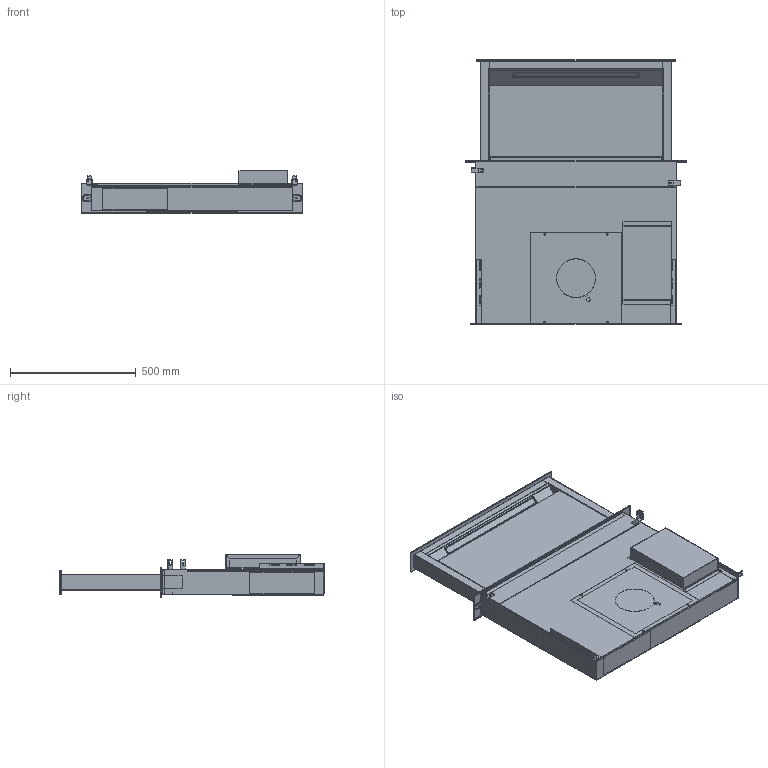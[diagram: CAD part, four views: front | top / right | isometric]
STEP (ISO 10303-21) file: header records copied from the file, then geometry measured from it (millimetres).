
FILE_DESCRIPTION((''),'2;1');
FILE_NAME('28A_710_ASM','2016-05-04T',('BD037'),(''),'PRO/ENGINEER BY PARAMETRIC TECHNOLOGY CORPORATION, 2014200','PRO/ENGINEER BY PARAMETRIC TECHNOLOGY CORPORATION, 2014200','');
FILE_SCHEMA(('CONFIG_CONTROL_DESIGN'));
Length unit declared in the file: millimetre
Products named in the file (35): 28A_001; 28A_004; 28A_021; 28A_032; 28A_711_ASM; 28A_002; 28A_715_ASM; 28A_003; 28A_006; 28A_007; 28A_008; 28A_010; 28A_713_ASM; 28A_011; 28A_731_ASM; 180_055; 180_056; 180_066; 180_067; 28A_022; 187_052; 28A_009; 28A_013; 28A_014; 28A_712_ASM; 28A_023; 28A_099; 28A_100; 28A_768_ASM; CME_ESTR_FARETTO_LED_FISSO_L500; CME_LAT-FIX-DX-FH-02; CME_LAT-FIX-SX-FH-02; CME_VETRO_FARETTO_LED_L500; CME_FARETTO_LED_FISSO_L500_ASM; 28A_710_ASM
Assembly tree (39 placements, depth 3):
  28A_710_ASM
    28A_711_ASM
      28A_001
      28A_004
      28A_021  x2
      28A_032
    28A_715_ASM
      28A_002
    28A_003
    28A_713_ASM
      28A_006
      28A_007
      28A_008
      28A_010
    28A_731_ASM
      28A_011
    180_055
    180_056
    180_066
    180_067
    28A_022  x2
    187_052  x2
    28A_009
    28A_712_ASM
      28A_013
      28A_014
    28A_023  x3
    28A_768_ASM
      28A_099
      28A_100
    CME_FARETTO_LED_FISSO_L500_ASM
      CME_ESTR_FARETTO_LED_FISSO_L500
      CME_LAT-FIX-DX-FH-02
      CME_LAT-FIX-SX-FH-02
      CME_VETRO_FARETTO_LED_L500
Bounding box: 880 x 1053.2 x 170.4 mm (x, y, z)
Volume: 3794649.7 mm3; surface area: 6353876.9 mm2
Topology: 32 solids, 32 shells, 1883 faces, 4531 edges, 2692 vertices
Faces by surface type: plane 1049, cylinder 636, bspline 108, torus 50, sphere 20, extrusion 12, cone 8
Entity records: 54327 total; most frequent: CARTESIAN_POINT 15348, DIRECTION 8137, ORIENTED_EDGE 7890, EDGE_CURVE 3945, AXIS2_PLACEMENT_3D 2759, VECTOR 2619, LINE 2607, VERTEX_POINT 2352
